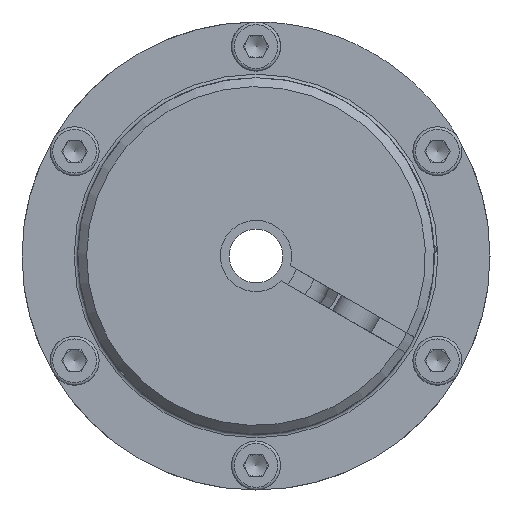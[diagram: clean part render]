
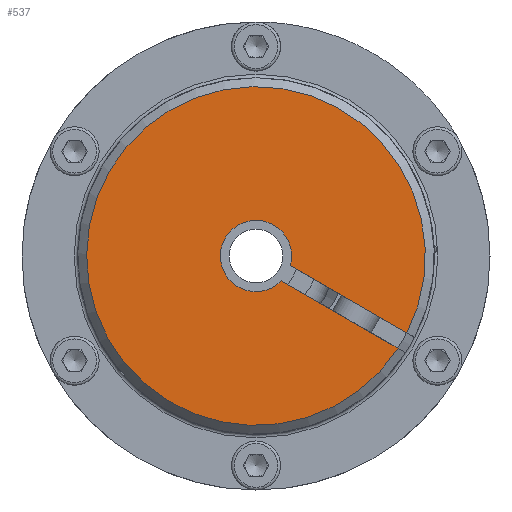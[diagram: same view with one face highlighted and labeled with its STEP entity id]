
A CAD part, left-side view. The second image highlights one B-rep face of the part: STEP entity #537.
In plain terms, the highlighted planar face has unit normal (-1, 0, 0).
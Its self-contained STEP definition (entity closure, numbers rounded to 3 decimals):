
#537 = ADVANCED_FACE( '', ( #1492 ), #1493, .T. );
#1492 = FACE_OUTER_BOUND( '', #3034, .T. );
#1493 = PLANE( '', #3035 );
#3034 = EDGE_LOOP( '', ( #4717, #4718, #4719, #4720 ) );
#3035 = AXIS2_PLACEMENT_3D( '', #4721, #4722, #4723 );
#4717 = ORIENTED_EDGE( '', *, *, #8399, .T. );
#4718 = ORIENTED_EDGE( '', *, *, #8400, .T. );
#4719 = ORIENTED_EDGE( '', *, *, #8319, .T. );
#4720 = ORIENTED_EDGE( '', *, *, #8401, .T. );
#4721 = CARTESIAN_POINT( '', ( -34.75, 2.641, 1.525 ) );
#4722 = DIRECTION( '', ( -1., 0., 0. ) );
#4723 = DIRECTION( '', ( 0., 0., 1. ) );
#8319 = EDGE_CURVE( '', #9825, #9831, #9833, .T. );
#8399 = EDGE_CURVE( '', #9970, #9971, #9972, .T. );
#8400 = EDGE_CURVE( '', #9971, #9825, #9973, .T. );
#8401 = EDGE_CURVE( '', #9831, #9970, #9974, .T. );
#9825 = VERTEX_POINT( '', #12082 );
#9831 = VERTEX_POINT( '', #12091 );
#9833 = LINE( '', #12093, #12094 );
#9970 = VERTEX_POINT( '', #12340 );
#9971 = VERTEX_POINT( '', #12341 );
#9972 = LINE( '', #12342, #12343 );
#9973 = CIRCLE( '', #12344, 4. );
#9974 = CIRCLE( '', #12345, 19. );
#12082 = CARTESIAN_POINT( '', ( -34.75, -3.854, -1.07 ) );
#12091 = CARTESIAN_POINT( '', ( -34.75, -16.932, -8.621 ) );
#12093 = CARTESIAN_POINT( '', ( -34.75, 2.141, 2.391 ) );
#12094 = VECTOR( '', #16152, 1000. );
#12340 = CARTESIAN_POINT( '', ( -34.75, -15.932, -10.353 ) );
#12341 = CARTESIAN_POINT( '', ( -34.75, -2.854, -2.803 ) );
#12342 = CARTESIAN_POINT( '', ( -34.75, 3.141, 0.659 ) );
#12343 = VECTOR( '', #16274, 1000. );
#12344 = AXIS2_PLACEMENT_3D( '', #16275, #16276, #16277 );
#12345 = AXIS2_PLACEMENT_3D( '', #16278, #16279, #16280 );
#16152 = DIRECTION( '', ( 0., -0.866, -0.5 ) );
#16274 = DIRECTION( '', ( 0., 0.866, 0.5 ) );
#16275 = CARTESIAN_POINT( '', ( -34.75, 0., 0. ) );
#16276 = DIRECTION( '', ( 1., 0., 0. ) );
#16277 = DIRECTION( '', ( 0., -0.866, -0.5 ) );
#16278 = CARTESIAN_POINT( '', ( -34.75, 0., 0. ) );
#16279 = DIRECTION( '', ( -1., 0., 0. ) );
#16280 = DIRECTION( '', ( 0., 0.866, 0.5 ) );
